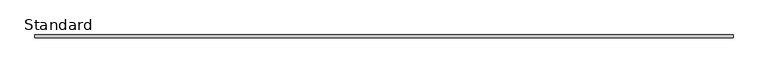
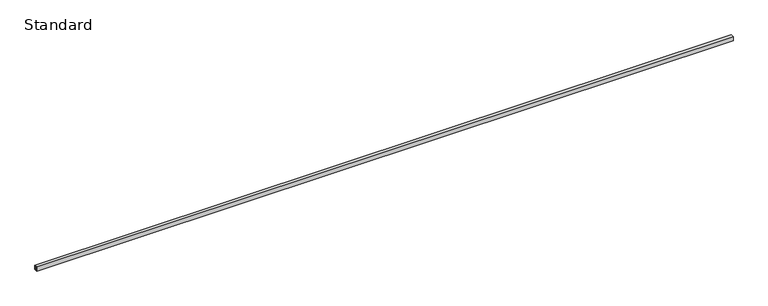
"""IFC4 building model written with IfcOpenShell, lengths in millimetres: furniture geometry, X_Partition-Channel-Duracube-Ceiling : Standard."""

from ifc_helpers import new_model, si_unit, frame, origin, place, context, project, spatial, polyline, outline, extrude, source, transform, mapped, element, save


def standard_1bf8a628(model_context):
    return source(origin(), model_context, "Body", "SweptSolid", [
        extrude(outline(polyline([(0.0, 0.0), (-2.0, 0.0), (-2.0, 24.0), (-15.0, 24.0), (-15.0, 0.0), (-17.0, 0.0), (-17.0, 26.0), (0.0, 26.0), (0.0, 0.0)])), frame((-1957.2996736, 0.0, 0.0), z_axis=(1.0, 0.0, 0.0), x_axis=(0.0, 1.0, 0.0)), (0.0, 0.0, 1.0), 4004.0),
    ])


if __name__ == "__main__":
    model = new_model("IFC4")
    model_context = context("Model", 3, world=origin())
    ifc_project = project(units=[si_unit("LENGTHUNIT", "METRE", prefix="MILLI")], contexts=[model_context])
    site = spatial("IfcSite", under=ifc_project)
    building = spatial("IfcBuilding", under=site)
    placement = place(None, origin())
    standard_shape = standard_1bf8a628(model_context)
    element("IfcFurniture", 1, ObjectType="X_Partition-Channel-Duracube-Ceiling : Standard", at=placement, inside=building, context=model_context, shape_type="MappedRepresentation", body=[
        mapped(standard_shape, transform((0.0, 0.0, 0.0), x_axis=(1.0, 0.0, 0.0), y_axis=(0.0, 1.0, 0.0), z_axis=(0.0, 0.0, 1.0))),
    ])
    save(model, "model.ifc")
